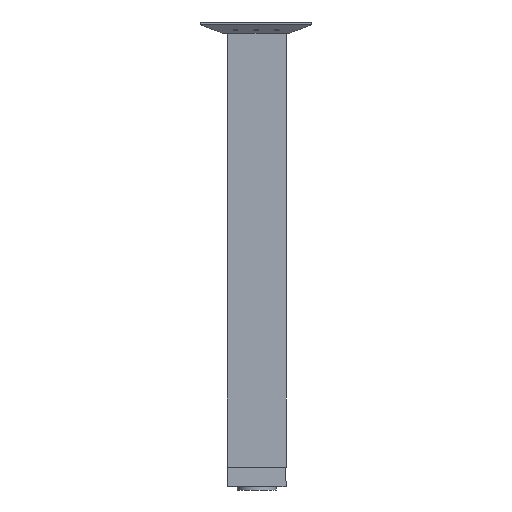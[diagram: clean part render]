
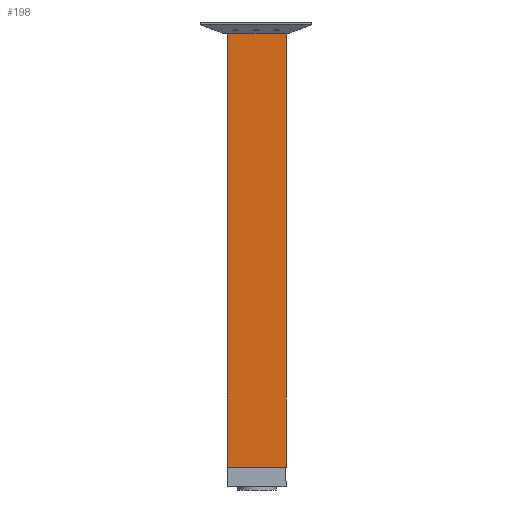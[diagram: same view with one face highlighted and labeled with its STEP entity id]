
A CAD part, front view. The second image highlights one B-rep face of the part: STEP entity #198.
In plain terms, the highlighted planar face has unit normal (0, -1, 0).
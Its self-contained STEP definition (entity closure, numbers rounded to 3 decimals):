
#198 = ADVANCED_FACE( '', ( #340 ), #341, .T. );
#340 = FACE_OUTER_BOUND( '', #607, .T. );
#341 = PLANE( '', #608 );
#607 = EDGE_LOOP( '', ( #1018, #1019, #1020, #1021 ) );
#608 = AXIS2_PLACEMENT_3D( '', #1022, #1023, #1024 );
#1018 = ORIENTED_EDGE( '', *, *, #1753, .T. );
#1019 = ORIENTED_EDGE( '', *, *, #1754, .F. );
#1020 = ORIENTED_EDGE( '', *, *, #1755, .T. );
#1021 = ORIENTED_EDGE( '', *, *, #1751, .T. );
#1022 = CARTESIAN_POINT( '', ( 69., -21., 0. ) );
#1023 = DIRECTION( '', ( 0., -1., 0. ) );
#1024 = DIRECTION( '', ( 1., 0., 0. ) );
#1751 = EDGE_CURVE( '', #2080, #2078, #2081, .T. );
#1753 = EDGE_CURVE( '', #2078, #2083, #2084, .T. );
#1754 = EDGE_CURVE( '', #2085, #2083, #2086, .T. );
#1755 = EDGE_CURVE( '', #2085, #2080, #2087, .T. );
#2078 = VERTEX_POINT( '', #2592 );
#2080 = VERTEX_POINT( '', #2595 );
#2081 = LINE( '', #2596, #2597 );
#2083 = VERTEX_POINT( '', #2600 );
#2084 = LINE( '', #2601, #2602 );
#2085 = VERTEX_POINT( '', #2603 );
#2086 = LINE( '', #2604, #2605 );
#2087 = LINE( '', #2606, #2607 );
#2592 = CARTESIAN_POINT( '', ( 69., -21., 667. ) );
#2595 = CARTESIAN_POINT( '', ( 69., -21., 0. ) );
#2596 = CARTESIAN_POINT( '', ( 69., -21., 0. ) );
#2597 = VECTOR( '', #3161, 1. );
#2600 = CARTESIAN_POINT( '', ( -21., -21., 667. ) );
#2601 = CARTESIAN_POINT( '', ( -21., -21., 667. ) );
#2602 = VECTOR( '', #3163, 1. );
#2603 = CARTESIAN_POINT( '', ( -21., -21., 0. ) );
#2604 = CARTESIAN_POINT( '', ( -21., -21., 0. ) );
#2605 = VECTOR( '', #3164, 1. );
#2606 = CARTESIAN_POINT( '', ( -21., -21., 0. ) );
#2607 = VECTOR( '', #3165, 1. );
#3161 = DIRECTION( '', ( 0., 0., 1. ) );
#3163 = DIRECTION( '', ( -1., 0., 0. ) );
#3164 = DIRECTION( '', ( 0., 0., 1. ) );
#3165 = DIRECTION( '', ( 1., 0., 0. ) );
